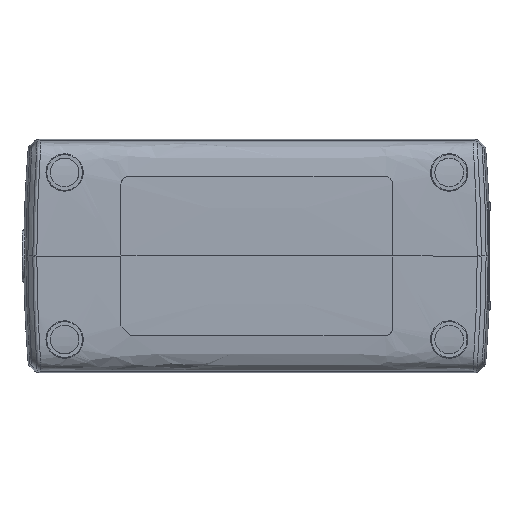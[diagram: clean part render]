
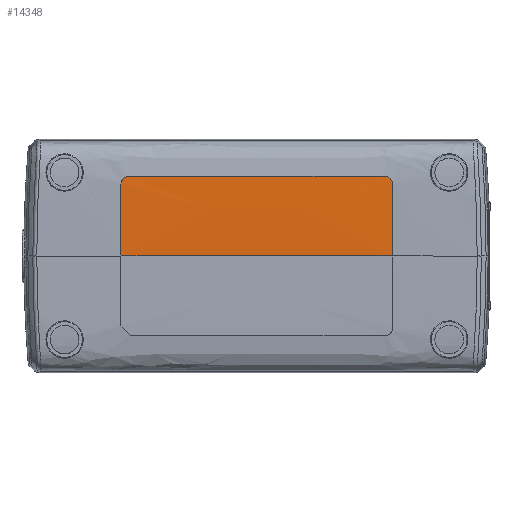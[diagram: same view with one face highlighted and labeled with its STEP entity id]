
A CAD part, front view. The second image highlights one B-rep face of the part: STEP entity #14348.
In plain terms, the highlighted free-form (B-spline) face has degree [3, 3] with [6, 4] control points.
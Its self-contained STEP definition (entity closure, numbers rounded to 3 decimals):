
#107 = B_SPLINE_CURVE_WITH_KNOTS ( 'NONE', 3,
 ( #941, #948, #950, #952, #953, #955, #957, #958 ),
 .UNSPECIFIED., .F., .F.,
 ( 4, 2, 2, 4 ),
 ( 0., 0.009, 0.014, 0.019 ),
 .UNSPECIFIED. ) ;
#108 = B_SPLINE_CURVE_WITH_KNOTS ( 'NONE', 3,
 ( #965, #970, #972, #973, #975, #977, #978, #980, #982, #984, #985, #987, #989, #990 ),
 .UNSPECIFIED., .F., .F.,
 ( 4, 2, 2, 2, 2, 2, 4 ),
 ( 0., 0., 0.001, 0.001, 0.002, 0.002, 0.003 ),
 .UNSPECIFIED. ) ;
#109 = B_SPLINE_CURVE_WITH_KNOTS ( 'NONE', 3,
 ( #992, #999, #1000, #1002, #1004, #1006, #1007, #1009, #1011, #1012, #1014, #1016, #1018, #1019 ),
 .UNSPECIFIED., .F., .F.,
 ( 4, 2, 2, 2, 2, 2, 4 ),
 ( 0., 0., 0.001, 0.001, 0.002, 0.002, 0.003 ),
 .UNSPECIFIED. ) ;
#111 = B_SPLINE_CURVE_WITH_KNOTS ( 'NONE', 3,
 ( #1040, #1046, #1048, #1050, #1051, #1053, #1055, #1056 ),
 .UNSPECIFIED., .F., .F.,
 ( 4, 2, 2, 4 ),
 ( 0., 0.005, 0.009, 0.019 ),
 .UNSPECIFIED. ) ;
#915 = CARTESIAN_POINT ( 'NONE',  ( 0.022, -18.317, 20.5 ) ) ;
#936 = DIRECTION ( 'NONE',  ( -1., 0., 0. ) ) ;
#941 = CARTESIAN_POINT ( 'NONE',  ( 35., -18.5, 0. ) ) ;
#948 = CARTESIAN_POINT ( 'NONE',  ( 35., -18.5, 3.083 ) ) ;
#950 = CARTESIAN_POINT ( 'NONE',  ( 35., -18.51, 6.167 ) ) ;
#952 = CARTESIAN_POINT ( 'NONE',  ( 35., -18.512, 10.792 ) ) ;
#953 = CARTESIAN_POINT ( 'NONE',  ( 35., -18.51, 12.334 ) ) ;
#955 = CARTESIAN_POINT ( 'NONE',  ( 35., -18.486, 15.417 ) ) ;
#957 = CARTESIAN_POINT ( 'NONE',  ( 35., -18.464, 16.959 ) ) ;
#958 = CARTESIAN_POINT ( 'NONE',  ( 35., -18.41, 18.5 ) ) ;
#965 = CARTESIAN_POINT ( 'NONE',  ( 35., -18.41, 18.5 ) ) ;
#970 = CARTESIAN_POINT ( 'NONE',  ( 35., -18.406, 18.632 ) ) ;
#972 = CARTESIAN_POINT ( 'NONE',  ( 34.987, -18.401, 18.762 ) ) ;
#973 = CARTESIAN_POINT ( 'NONE',  ( 34.936, -18.391, 19.017 ) ) ;
#975 = CARTESIAN_POINT ( 'NONE',  ( 34.898, -18.386, 19.144 ) ) ;
#977 = CARTESIAN_POINT ( 'NONE',  ( 34.798, -18.375, 19.386 ) ) ;
#978 = CARTESIAN_POINT ( 'NONE',  ( 34.736, -18.37, 19.501 ) ) ;
#980 = CARTESIAN_POINT ( 'NONE',  ( 34.591, -18.36, 19.718 ) ) ;
#982 = CARTESIAN_POINT ( 'NONE',  ( 34.507, -18.354, 19.821 ) ) ;
#984 = CARTESIAN_POINT ( 'NONE',  ( 34.231, -18.34, 20.098 ) ) ;
#985 = CARTESIAN_POINT ( 'NONE',  ( 34.008, -18.332, 20.247 ) ) ;
#987 = CARTESIAN_POINT ( 'NONE',  ( 33.527, -18.32, 20.447 ) ) ;
#989 = CARTESIAN_POINT ( 'NONE',  ( 33.264, -18.317, 20.5 ) ) ;
#990 = CARTESIAN_POINT ( 'NONE',  ( 33., -18.317, 20.5 ) ) ;
#992 = CARTESIAN_POINT ( 'NONE',  ( -33., -18.317, 20.5 ) ) ;
#999 = CARTESIAN_POINT ( 'NONE',  ( -33.132, -18.317, 20.5 ) ) ;
#1000 = CARTESIAN_POINT ( 'NONE',  ( -33.262, -18.318, 20.487 ) ) ;
#1002 = CARTESIAN_POINT ( 'NONE',  ( -33.518, -18.321, 20.436 ) ) ;
#1004 = CARTESIAN_POINT ( 'NONE',  ( -33.645, -18.323, 20.398 ) ) ;
#1006 = CARTESIAN_POINT ( 'NONE',  ( -33.887, -18.329, 20.297 ) ) ;
#1007 = CARTESIAN_POINT ( 'NONE',  ( -34.002, -18.332, 20.236 ) ) ;
#1009 = CARTESIAN_POINT ( 'NONE',  ( -34.219, -18.34, 20.091 ) ) ;
#1011 = CARTESIAN_POINT ( 'NONE',  ( -34.322, -18.345, 20.007 ) ) ;
#1012 = CARTESIAN_POINT ( 'NONE',  ( -34.598, -18.359, 19.73 ) ) ;
#1014 = CARTESIAN_POINT ( 'NONE',  ( -34.747, -18.37, 19.507 ) ) ;
#1016 = CARTESIAN_POINT ( 'NONE',  ( -34.947, -18.391, 19.026 ) ) ;
#1018 = CARTESIAN_POINT ( 'NONE',  ( -35., -18.401, 18.764 ) ) ;
#1019 = CARTESIAN_POINT ( 'NONE',  ( -35., -18.41, 18.5 ) ) ;
#1040 = CARTESIAN_POINT ( 'NONE',  ( -35., -18.41, 18.5 ) ) ;
#1046 = CARTESIAN_POINT ( 'NONE',  ( -35., -18.464, 16.959 ) ) ;
#1048 = CARTESIAN_POINT ( 'NONE',  ( -35., -18.486, 15.417 ) ) ;
#1050 = CARTESIAN_POINT ( 'NONE',  ( -35., -18.51, 12.334 ) ) ;
#1051 = CARTESIAN_POINT ( 'NONE',  ( -35., -18.512, 10.792 ) ) ;
#1053 = CARTESIAN_POINT ( 'NONE',  ( -35., -18.51, 6.167 ) ) ;
#1055 = CARTESIAN_POINT ( 'NONE',  ( -35., -18.5, 3.083 ) ) ;
#1056 = CARTESIAN_POINT ( 'NONE',  ( -35., -18.5, 0. ) ) ;
#1060 = CARTESIAN_POINT ( 'NONE',  ( 61.057, -18.5, 0. ) ) ;
#1062 = DIRECTION ( 'NONE',  ( -1., 0., 0. ) ) ;
#8067 = LINE ( 'NONE', #915, #8068 ) ;
#8068 = VECTOR ( 'NONE', #936, 1000. ) ;
#8077 = LINE ( 'NONE', #1060, #8080 ) ;
#8080 = VECTOR ( 'NONE', #1062, 1000. ) ;
#9913 = ORIENTED_EDGE ( 'NONE', *, *, #11887, .T. ) ;
#9914 = ORIENTED_EDGE ( 'NONE', *, *, #11891, .T. ) ;
#9915 = ORIENTED_EDGE ( 'NONE', *, *, #11892, .F. ) ;
#9916 = ORIENTED_EDGE ( 'NONE', *, *, #11882, .T. ) ;
#9917 = ORIENTED_EDGE ( 'NONE', *, *, #11885, .T. ) ;
#9918 = ORIENTED_EDGE ( 'NONE', *, *, #11879, .T. ) ;
#11504 = FACE_OUTER_BOUND ( 'NONE', #12564, .T. ) ;
#11879 = EDGE_CURVE ( 'NONE', #24791, #24792, #8067, .T. ) ;
#11882 = EDGE_CURVE ( 'NONE', #24789, #24784, #107, .T. ) ;
#11885 = EDGE_CURVE ( 'NONE', #24784, #24791, #108, .T. ) ;
#11887 = EDGE_CURVE ( 'NONE', #24792, #24798, #109, .T. ) ;
#11891 = EDGE_CURVE ( 'NONE', #24798, #24862, #111, .T. ) ;
#11892 = EDGE_CURVE ( 'NONE', #24789, #24862, #8077, .T. ) ;
#12564 = EDGE_LOOP ( 'NONE', ( #9913, #9914, #9915, #9916, #9917, #9918 ) ) ;
#13406 = B_SPLINE_SURFACE_WITH_KNOTS ( 'NONE', 3, 3, ( 
 ( #29075, #29078, #29077, #29083 ),
 ( #29084, #29085, #29086, #29087 ),
 ( #29088, #29089, #29090, #29091 ),
 ( #29092, #29093, #29094, #29095 ),
 ( #29096, #29097, #29098, #29099 ),
 ( #29100, #29101, #29102, #29103 ) ),
 .UNSPECIFIED., .F., .F., .F.,
 ( 4, 2, 4 ),
 ( 4, 4 ),
 ( 0., 0.5, 1. ),
 ( 0., 1. ),
 .UNSPECIFIED. ) ;
#14348 = ADVANCED_FACE ( 'NONE', ( #11504 ), #13406, .T. ) ;
#24784 = VERTEX_POINT ( 'NONE', #34601 ) ;
#24789 = VERTEX_POINT ( 'NONE', #34603 ) ;
#24791 = VERTEX_POINT ( 'NONE', #34604 ) ;
#24792 = VERTEX_POINT ( 'NONE', #34605 ) ;
#24798 = VERTEX_POINT ( 'NONE', #34608 ) ;
#24862 = VERTEX_POINT ( 'NONE', #34644 ) ;
#29075 = CARTESIAN_POINT ( 'NONE',  ( 35., -18.5, 0. ) ) ;
#29077 = CARTESIAN_POINT ( 'NONE',  ( -11.667, -18.5, 0. ) ) ;
#29078 = CARTESIAN_POINT ( 'NONE',  ( 11.667, -18.5, 0. ) ) ;
#29083 = CARTESIAN_POINT ( 'NONE',  ( -35., -18.5, 0. ) ) ;
#29084 = CARTESIAN_POINT ( 'NONE',  ( 35., -18.5, 4.837 ) ) ;
#29085 = CARTESIAN_POINT ( 'NONE',  ( 11.667, -18.5, 4.837 ) ) ;
#29086 = CARTESIAN_POINT ( 'NONE',  ( -11.667, -18.5, 4.837 ) ) ;
#29087 = CARTESIAN_POINT ( 'NONE',  ( -35., -18.5, 4.837 ) ) ;
#29088 = CARTESIAN_POINT ( 'NONE',  ( 35., -18.52, 8.879 ) ) ;
#29089 = CARTESIAN_POINT ( 'NONE',  ( 11.667, -18.52, 8.879 ) ) ;
#29090 = CARTESIAN_POINT ( 'NONE',  ( -11.667, -18.52, 8.879 ) ) ;
#29091 = CARTESIAN_POINT ( 'NONE',  ( -35., -18.52, 8.879 ) ) ;
#29092 = CARTESIAN_POINT ( 'NONE',  ( 35., -18.494, 15.627 ) ) ;
#29093 = CARTESIAN_POINT ( 'NONE',  ( 11.667, -18.494, 15.627 ) ) ;
#29094 = CARTESIAN_POINT ( 'NONE',  ( -11.667, -18.494, 15.627 ) ) ;
#29095 = CARTESIAN_POINT ( 'NONE',  ( -35., -18.494, 15.627 ) ) ;
#29096 = CARTESIAN_POINT ( 'NONE',  ( 35., -18.448, 18.335 ) ) ;
#29097 = CARTESIAN_POINT ( 'NONE',  ( 11.667, -18.448, 18.335 ) ) ;
#29098 = CARTESIAN_POINT ( 'NONE',  ( -11.667, -18.448, 18.335 ) ) ;
#29099 = CARTESIAN_POINT ( 'NONE',  ( -35., -18.448, 18.335 ) ) ;
#29100 = CARTESIAN_POINT ( 'NONE',  ( 35., -18.317, 20.5 ) ) ;
#29101 = CARTESIAN_POINT ( 'NONE',  ( 11.667, -18.317, 20.5 ) ) ;
#29102 = CARTESIAN_POINT ( 'NONE',  ( -11.667, -18.317, 20.5 ) ) ;
#29103 = CARTESIAN_POINT ( 'NONE',  ( -35., -18.317, 20.5 ) ) ;
#34601 = CARTESIAN_POINT ( 'NONE',  ( 35., -18.41, 18.5 ) ) ;
#34603 = CARTESIAN_POINT ( 'NONE',  ( 35., -18.5, 0. ) ) ;
#34604 = CARTESIAN_POINT ( 'NONE',  ( 33., -18.317, 20.5 ) ) ;
#34605 = CARTESIAN_POINT ( 'NONE',  ( -33., -18.317, 20.5 ) ) ;
#34608 = CARTESIAN_POINT ( 'NONE',  ( -35., -18.41, 18.5 ) ) ;
#34644 = CARTESIAN_POINT ( 'NONE',  ( -35., -18.5, 0. ) ) ;
